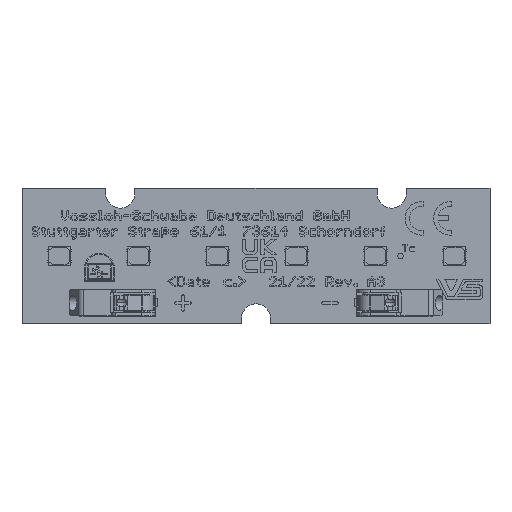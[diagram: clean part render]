
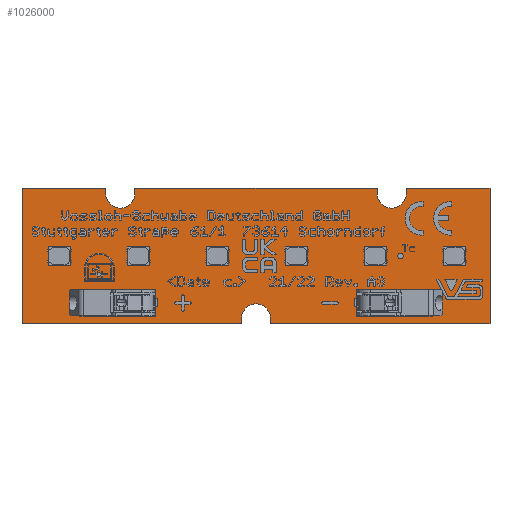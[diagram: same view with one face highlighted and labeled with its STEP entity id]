
A CAD part, top view. The second image highlights one B-rep face of the part: STEP entity #1026000.
In plain terms, the highlighted planar face has unit normal (0, 0, 1).
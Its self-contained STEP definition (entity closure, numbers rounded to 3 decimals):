
#1024620=CARTESIAN_POINT('',(0.,0.,0.));
#1024630=DIRECTION('',(0.,0.,1.));
#1024640=DIRECTION('',(1.,0.,0.));
#1024650=AXIS2_PLACEMENT_3D('',#1024620,#1024630,#1024640);
#1024660=PLANE('',#1024650);
#1024670=CARTESIAN_POINT('',(3.238,25.031,0.));
#1024680=DIRECTION('',(0.,-1.,0.));
#1024690=VECTOR('',#1024680,1.);
#1024700=LINE('',#1024670,#1024690);
#1024710=CARTESIAN_POINT('',(3.238,25.031,0.));
#1024720=VERTEX_POINT('',#1024710);
#1024730=CARTESIAN_POINT('',(3.238,5.031,0.));
#1024740=VERTEX_POINT('',#1024730);
#1024750=EDGE_CURVE('',#1024720,#1024740,#1024700,.T.);
#1024760=ORIENTED_EDGE('',*,*,#1024750,.T.);
#1024770=CARTESIAN_POINT('',(15.588,25.031,0.));
#1024780=DIRECTION('',(-1.,0.,0.));
#1024790=VECTOR('',#1024780,1.);
#1024800=LINE('',#1024770,#1024790);
#1024810=CARTESIAN_POINT('',(15.588,25.031,0.));
#1024820=VERTEX_POINT('',#1024810);
#1024830=EDGE_CURVE('',#1024820,#1024720,#1024800,.T.);
#1024840=ORIENTED_EDGE('',*,*,#1024830,.T.);
#1024850=CARTESIAN_POINT('',(15.588,24.231,0.));
#1024860=DIRECTION('',(0.,1.,0.));
#1024870=VECTOR('',#1024860,1.);
#1024880=LINE('',#1024850,#1024870);
#1024890=CARTESIAN_POINT('',(15.588,24.231,0.));
#1024900=VERTEX_POINT('',#1024890);
#1024910=EDGE_CURVE('',#1024900,#1024820,#1024880,.T.);
#1024920=ORIENTED_EDGE('',*,*,#1024910,.T.);
#1024930=CARTESIAN_POINT('',(17.738,24.231,0.));
#1024940=DIRECTION('',(0.,0.,-1.));
#1024950=DIRECTION('',(1.,0.,0.));
#1024960=AXIS2_PLACEMENT_3D('',#1024930,#1024940,#1024950);
#1024970=CIRCLE('',#1024960,2.15);
#1024980=CARTESIAN_POINT('',(19.888,24.231,0.));
#1024990=VERTEX_POINT('',#1024980);
#1025000=EDGE_CURVE('',#1024990,#1024900,#1024970,.T.);
#1025010=ORIENTED_EDGE('',*,*,#1025000,.T.);
#1025020=CARTESIAN_POINT('',(19.888,25.031,0.));
#1025030=DIRECTION('',(0.,-1.,0.));
#1025040=VECTOR('',#1025030,1.);
#1025050=LINE('',#1025020,#1025040);
#1025060=CARTESIAN_POINT('',(19.888,25.031,0.));
#1025070=VERTEX_POINT('',#1025060);
#1025080=EDGE_CURVE('',#1025070,#1024990,#1025050,.T.);
#1025090=ORIENTED_EDGE('',*,*,#1025080,.T.);
#1025100=CARTESIAN_POINT('',(55.588,25.031,0.));
#1025110=DIRECTION('',(-1.,0.,0.));
#1025120=VECTOR('',#1025110,1.);
#1025130=LINE('',#1025100,#1025120);
#1025140=CARTESIAN_POINT('',(55.588,25.031,0.));
#1025150=VERTEX_POINT('',#1025140);
#1025160=EDGE_CURVE('',#1025150,#1025070,#1025130,.T.);
#1025170=ORIENTED_EDGE('',*,*,#1025160,.T.);
#1025180=CARTESIAN_POINT('',(55.588,24.231,0.));
#1025190=DIRECTION('',(0.,1.,0.));
#1025200=VECTOR('',#1025190,1.);
#1025210=LINE('',#1025180,#1025200);
#1025220=CARTESIAN_POINT('',(55.588,24.231,0.));
#1025230=VERTEX_POINT('',#1025220);
#1025240=EDGE_CURVE('',#1025230,#1025150,#1025210,.T.);
#1025250=ORIENTED_EDGE('',*,*,#1025240,.T.);
#1025260=CARTESIAN_POINT('',(57.738,24.231,0.));
#1025270=DIRECTION('',(0.,0.,-1.));
#1025280=DIRECTION('',(1.,0.,0.));
#1025290=AXIS2_PLACEMENT_3D('',#1025260,#1025270,#1025280);
#1025300=CIRCLE('',#1025290,2.15);
#1025310=CARTESIAN_POINT('',(59.888,24.231,0.));
#1025320=VERTEX_POINT('',#1025310);
#1025330=EDGE_CURVE('',#1025320,#1025230,#1025300,.T.);
#1025340=ORIENTED_EDGE('',*,*,#1025330,.T.);
#1025350=CARTESIAN_POINT('',(59.888,25.031,0.));
#1025360=DIRECTION('',(0.,-1.,0.));
#1025370=VECTOR('',#1025360,1.);
#1025380=LINE('',#1025350,#1025370);
#1025390=CARTESIAN_POINT('',(59.888,25.031,0.));
#1025400=VERTEX_POINT('',#1025390);
#1025410=EDGE_CURVE('',#1025400,#1025320,#1025380,.T.);
#1025420=ORIENTED_EDGE('',*,*,#1025410,.T.);
#1025430=CARTESIAN_POINT('',(72.238,25.031,0.));
#1025440=DIRECTION('',(-1.,0.,0.));
#1025450=VECTOR('',#1025440,1.);
#1025460=LINE('',#1025430,#1025450);
#1025470=CARTESIAN_POINT('',(72.238,25.031,0.));
#1025480=VERTEX_POINT('',#1025470);
#1025490=EDGE_CURVE('',#1025480,#1025400,#1025460,.T.);
#1025500=ORIENTED_EDGE('',*,*,#1025490,.T.);
#1025510=CARTESIAN_POINT('',(72.238,5.031,0.));
#1025520=DIRECTION('',(0.,1.,0.));
#1025530=VECTOR('',#1025520,1.);
#1025540=LINE('',#1025510,#1025530);
#1025550=CARTESIAN_POINT('',(72.238,5.031,0.));
#1025560=VERTEX_POINT('',#1025550);
#1025570=EDGE_CURVE('',#1025560,#1025480,#1025540,.T.);
#1025580=ORIENTED_EDGE('',*,*,#1025570,.T.);
#1025590=CARTESIAN_POINT('',(39.888,5.031,0.));
#1025600=DIRECTION('',(1.,0.,0.));
#1025610=VECTOR('',#1025600,1.);
#1025620=LINE('',#1025590,#1025610);
#1025630=CARTESIAN_POINT('',(39.888,5.031,0.));
#1025640=VERTEX_POINT('',#1025630);
#1025650=EDGE_CURVE('',#1025640,#1025560,#1025620,.T.);
#1025660=ORIENTED_EDGE('',*,*,#1025650,.T.);
#1025670=CARTESIAN_POINT('',(39.888,5.831,0.));
#1025680=DIRECTION('',(0.,-1.,0.));
#1025690=VECTOR('',#1025680,1.);
#1025700=LINE('',#1025670,#1025690);
#1025710=CARTESIAN_POINT('',(39.888,5.831,0.));
#1025720=VERTEX_POINT('',#1025710);
#1025730=EDGE_CURVE('',#1025720,#1025640,#1025700,.T.);
#1025740=ORIENTED_EDGE('',*,*,#1025730,.T.);
#1025750=CARTESIAN_POINT('',(37.738,5.831,0.));
#1025760=DIRECTION('',(-0.,0.,-1.));
#1025770=DIRECTION('',(-1.,0.,0.));
#1025780=AXIS2_PLACEMENT_3D('',#1025750,#1025760,#1025770);
#1025790=CIRCLE('',#1025780,2.15);
#1025800=CARTESIAN_POINT('',(35.588,5.831,0.));
#1025810=VERTEX_POINT('',#1025800);
#1025820=EDGE_CURVE('',#1025810,#1025720,#1025790,.T.);
#1025830=ORIENTED_EDGE('',*,*,#1025820,.T.);
#1025840=CARTESIAN_POINT('',(35.588,5.031,0.));
#1025850=DIRECTION('',(0.,1.,0.));
#1025860=VECTOR('',#1025850,1.);
#1025870=LINE('',#1025840,#1025860);
#1025880=CARTESIAN_POINT('',(35.588,5.031,0.));
#1025890=VERTEX_POINT('',#1025880);
#1025900=EDGE_CURVE('',#1025890,#1025810,#1025870,.T.);
#1025910=ORIENTED_EDGE('',*,*,#1025900,.T.);
#1025920=CARTESIAN_POINT('',(3.238,5.031,0.));
#1025930=DIRECTION('',(1.,0.,0.));
#1025940=VECTOR('',#1025930,1.);
#1025950=LINE('',#1025920,#1025940);
#1025960=EDGE_CURVE('',#1024740,#1025890,#1025950,.T.);
#1025970=ORIENTED_EDGE('',*,*,#1025960,.T.);
#1025980=EDGE_LOOP('',(#1025970,#1025910,#1025830,#1025740,#1025660,
#1025580,#1025500,#1025420,#1025340,#1025250,#1025170,#1025090,#1025010,
#1024920,#1024840,#1024760));
#1025990=FACE_OUTER_BOUND('',#1025980,.T.);
#1026000=ADVANCED_FACE('',(#1025990),#1024660,.T.);
